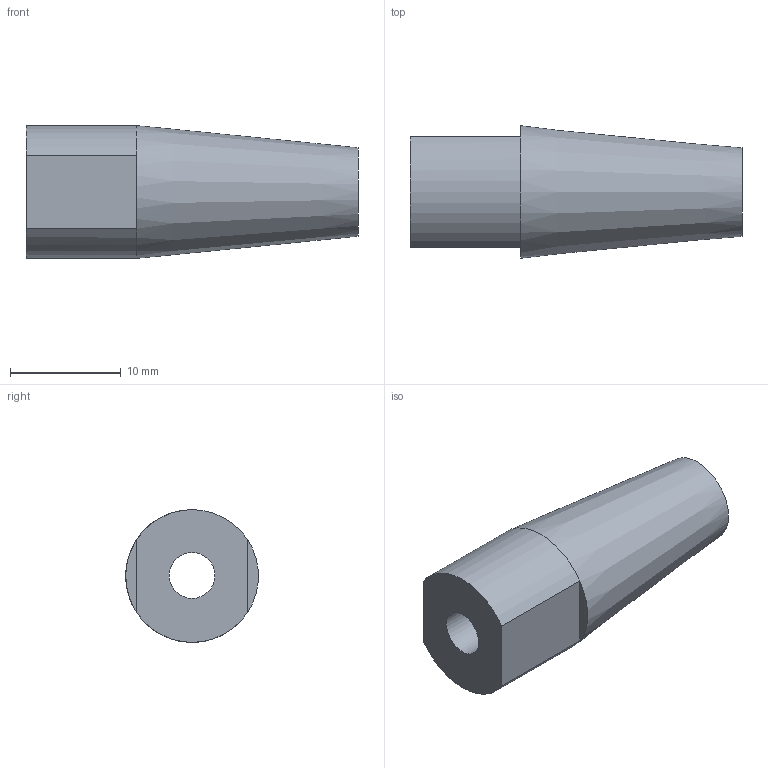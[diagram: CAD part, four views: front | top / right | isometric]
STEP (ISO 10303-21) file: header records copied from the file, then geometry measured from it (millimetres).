
FILE_DESCRIPTION(/* description */ ('Unknown'),/* implementation_level */ '2;1');
FILE_NAME(/* name */ 'Pieces alu ar',/* time_stamp */ '2016-02-13T16:09:55+01:00',/* author */ ('Unknown'),/* organization */ ('Unknown'),/* preprocessor_version */ 'ST-DEVELOPER v16',/* originating_system */ 'DEX',/* authorisation */ $);
FILE_SCHEMA (('AUTOMOTIVE_DESIGN {1 0 10303 214 3 1 1}'));
Length unit declared in the file: millimetre
Products named in the file (1): Pieces alu ar
Bounding box: 30 x 11.98 x 12 mm (x, y, z)
Volume: 2230 mm3; surface area: 1526.7 mm2
Topology: 1 solids, 1 shells, 9 faces, 20 edges, 13 vertices
Faces by surface type: plane 6, cylinder 2, cone 1
Full cylindrical faces by diameter (mm): 4.134 x1
Entity records: 317 total; most frequent: DIRECTION 44, CARTESIAN_POINT 37, ORIENTED_EDGE 32, AXIS2_PLACEMENT_3D 18, EDGE_CURVE 16, EDGE_LOOP 13, FACE_BOUND 13, VERTEX_POINT 11
